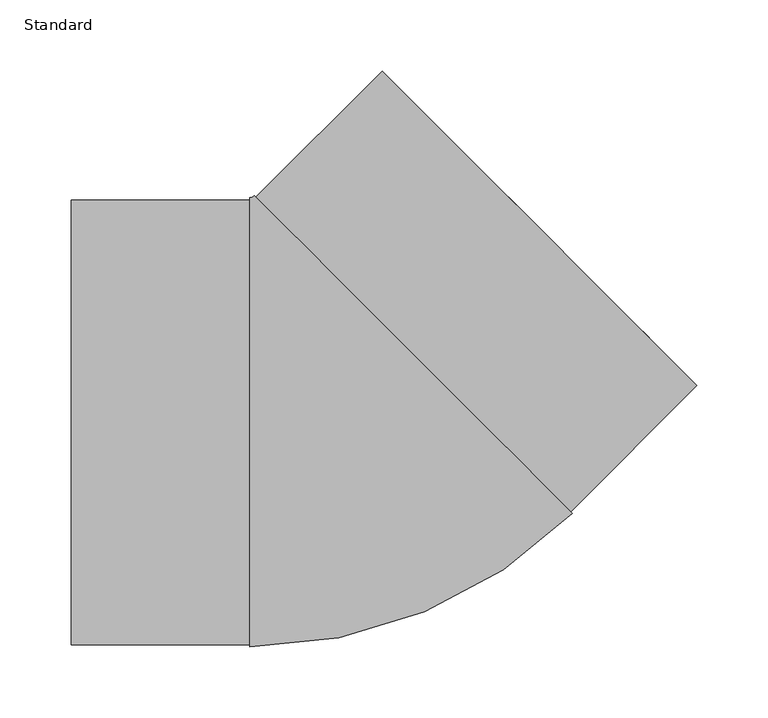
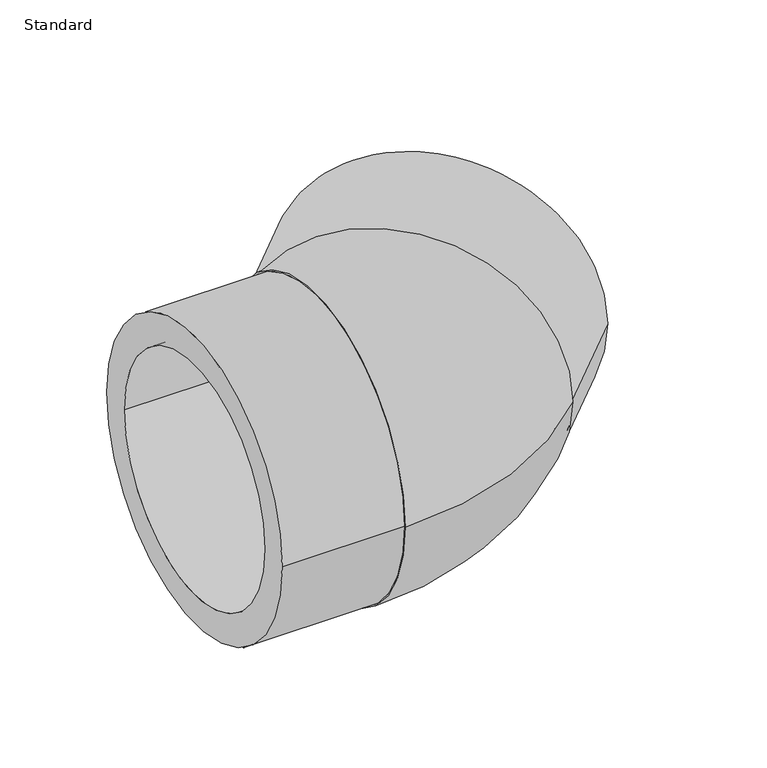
"""IFC4 building model written with IfcOpenShell, lengths in millimetres: pipe fitting geometry, EGB_VASEN_ PPR_Codo a tope 90 WXRB200_Codo a tope 45 WXRB220 : Standard."""

from ifc_helpers import new_model, si_unit, point, frame, origin, place, context, project, spatial, polyline, circle_curve, ellipse_curve, trimmed, source, transform, mapped, element, save
from ifc_brep_helpers import plane_surface, cylinder_surface, revolved_surface, advanced_brep


def standard_2260ea3e(model_context):
    return source(origin(), model_context, "Body", "AdvancedBrep", [
        advanced_brep(
        [(-193.0, -156.5, 0.0), (-193.0, 156.5, 0.0), (-193.0, -125.0, 0.0), (-193.0, 125.0, 0.0), (-67.4457429, -156.5, 0.0), (-67.4457429, 156.5, 0.0), (-67.4457429, -125.0, 0.0), (-67.4457429, 125.0, 0.0), (-67.4457429, -158.0, 0.0), (-67.4457429, 158.0, 0.0), (159.4142136, -64.0315293, 0.0), (-64.0315293, 159.4142136, 0.0), (158.3535534, -62.9708691, 0.0), (-62.9708691, 158.3535534, 0.0), (136.0796898, -40.6970055, 0.0), (-40.6970055, 136.0796898, 0.0), (247.13382, 25.8093975, 0.0), (25.8093975, 247.13382, 0.0), (224.8599564, 48.0832611, 0.0), (48.0832611, 224.8599564, 0.0)],
        [
            (0, 1, circle_curve(frame((-193.0, 0.0, 0.0), z_axis=(-1.0, 0.0, 0.0), x_axis=(0.0, 1.0, 0.0)), 156.5)),
            (1, 0, circle_curve(frame((-193.0, 0.0, 0.0), z_axis=(-1.0, 0.0, 0.0), x_axis=(0.0, 1.0, 0.0)), 156.5)),
            (2, 3, circle_curve(frame((-193.0, 0.0, 0.0), z_axis=(1.0, 0.0, 0.0), x_axis=(0.0, 1.0, 0.0)), 125.0)),
            (3, 2, circle_curve(frame((-193.0, 0.0, 0.0), z_axis=(1.0, 0.0, 0.0), x_axis=(0.0, 1.0, 0.0)), 125.0)),
            (0, 4),
            (4, 5, circle_curve(frame((-67.4457429, 0.0, 0.0), z_axis=(-1.0, 0.0, 0.0), x_axis=(0.0, 1.0, 0.0)), 156.5)),
            (5, 1),
            (5, 4, circle_curve(frame((-67.4457429, 0.0, 0.0), z_axis=(-1.0, 0.0, 0.0), x_axis=(0.0, 1.0, 0.0)), 156.5)),
            (2, 6),
            (6, 7, circle_curve(frame((-67.4457429, 0.0, 0.0), z_axis=(1.0, 0.0, 0.0), x_axis=(0.0, 1.0, 0.0)), 125.0)),
            (7, 3),
            (7, 6, circle_curve(frame((-67.4457429, 0.0, 0.0), z_axis=(1.0, 0.0, 0.0), x_axis=(0.0, 1.0, 0.0)), 125.0)),
            (8, 9, circle_curve(frame((-67.4457429, 0.0, 0.0), z_axis=(-1.0, 0.0, 0.0), x_axis=(0.0, 1.0, 0.0)), 158.0)),
            (9, 8, circle_curve(frame((-67.4457429, 0.0, 0.0), z_axis=(-1.0, 0.0, 0.0), x_axis=(0.0, 1.0, 0.0)), 158.0)),
            (10, 11, circle_curve(frame((47.6913421, 47.6913421, 0.0), z_axis=(0.7071067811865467, 0.7071067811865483, 0.0), x_axis=(-0.7071067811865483, 0.7071067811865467, 0.0)), 158.0)),
            (11, 10, circle_curve(frame((47.6913421, 47.6913421, 0.0), z_axis=(0.7071067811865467, 0.7071067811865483, 0.0), x_axis=(-0.7071067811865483, 0.7071067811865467, 0.0)), 158.0)),
            (12, 13, circle_curve(frame((47.6913421, 47.6913421, 0.0), z_axis=(-0.7071067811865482, -0.7071067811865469, 0.0), x_axis=(-0.7071067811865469, 0.7071067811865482, 0.0)), 156.5)),
            (13, 12, circle_curve(frame((47.6913421, 47.6913421, 0.0), z_axis=(-0.7071067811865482, -0.7071067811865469, 0.0), x_axis=(-0.7071067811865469, 0.7071067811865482, 0.0)), 156.5)),
            (14, 15, circle_curve(frame((47.6913421, 47.6913421, 0.0), z_axis=(0.7071067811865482, 0.7071067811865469, 0.0), x_axis=(-0.7071067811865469, 0.7071067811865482, 0.0)), 125.0)),
            (15, 14, circle_curve(frame((47.6913421, 47.6913421, 0.0), z_axis=(0.7071067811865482, 0.7071067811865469, 0.0), x_axis=(-0.7071067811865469, 0.7071067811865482, 0.0)), 125.0)),
            (8, 10, circle_curve(frame((-67.4457429, 162.8284271, 0.0), z_axis=(0.0, 0.0, 1.0), x_axis=(0.0, -1.0, 0.0)), 320.8284271)),
            (11, 9, circle_curve(frame((-67.4457429, 162.8284271, 0.0), z_axis=(0.0, 0.0, -1.0), x_axis=(0.0, -1.0, 0.0)), 4.8284271)),
            (16, 17, circle_curve(frame((136.4716088, 136.4716088, 0.0), z_axis=(0.7071067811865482, 0.7071067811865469, 0.0), x_axis=(-0.7071067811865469, 0.7071067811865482, 0.0)), 156.5)),
            (17, 16, circle_curve(frame((136.4716088, 136.4716088, 0.0), z_axis=(0.7071067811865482, 0.7071067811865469, 0.0), x_axis=(-0.7071067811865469, 0.7071067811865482, 0.0)), 156.5)),
            (18, 19, circle_curve(frame((136.4716088, 136.4716088, 0.0), z_axis=(-0.7071067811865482, -0.7071067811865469, 0.0), x_axis=(-0.7071067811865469, 0.7071067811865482, 0.0)), 125.0)),
            (19, 18, circle_curve(frame((136.4716088, 136.4716088, 0.0), z_axis=(-0.7071067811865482, -0.7071067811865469, 0.0), x_axis=(-0.7071067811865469, 0.7071067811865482, 0.0)), 125.0)),
            (17, 13),
            (12, 16),
            (19, 15),
            (14, 18),
        ],
        [
            plane_surface(frame((-193.0, 0.0, 0.0), z_axis=(-1.0, 0.0, 0.0), x_axis=(0.0, 0.0, 1.0))),
            cylinder_surface(frame((-193.0, 0.0, 0.0), z_axis=(-1.0, 0.0, 0.0), x_axis=(0.0, 1.0, 0.0)), 156.5),
            revolved_surface(polyline([(-67.4457429, 125.0, 0.0), (-193.0, 125.0, 0.0)]), (-193.0, 0.0, 0.0), (1.0, 0.0, 0.0)),
            plane_surface(frame((-67.4457429, 0.0, 0.0), z_axis=(-1.0, 0.0, 0.0), x_axis=(0.0, 0.0, 1.0))),
            plane_surface(frame((47.6913421, 47.6913421, 0.0), z_axis=(0.7071067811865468, 0.7071067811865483, 0.0), x_axis=(0.0, 0.0, 1.0))),
            revolved_surface(trimmed(ellipse_curve(frame((-67.4457429, 0.0, 0.0), z_axis=(-1.0, 0.0, 0.0), x_axis=(0.0, 1.0, 0.0)), 158.0, 158.0), [point((-67.4457429, -158.0, 0.0))], [point((-67.4457429, 158.0, 0.0))], True, "CARTESIAN"), (-67.4457429, 162.8284271, 0.0), (0.0, 0.0, 1.0)),
            revolved_surface(trimmed(ellipse_curve(frame((-67.4457429, 0.0, 0.0), z_axis=(-1.0, 0.0, 0.0), x_axis=(0.0, 1.0, 0.0)), 158.0, 158.0), [point((-67.4457429, 158.0, 0.0))], [point((-67.4457429, -158.0, 0.0))], True, "CARTESIAN"), (-67.4457429, 162.8284271, 0.0), (0.0, 0.0, 1.0)),
            plane_surface(frame((136.4716088, 136.4716088, 0.0), z_axis=(0.7071067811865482, 0.7071067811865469, 0.0), x_axis=(0.0, 0.0, 1.0))),
            cylinder_surface(frame((47.6913421, 47.6913421, 0.0), z_axis=(-0.7071067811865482, -0.7071067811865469, 0.0), x_axis=(-0.7071067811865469, 0.7071067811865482, 0.0)), 156.5),
            revolved_surface(polyline([(48.083261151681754, 224.85995644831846, 0.0), (-40.69700554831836, 136.07968974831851, 0.0)]), (47.6913421, 47.6913421, 0.0), (0.7071067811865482, 0.7071067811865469, 0.0)),
        ],
        [
            (0, [[1, 2], [3, 4]]),
            (1, [[-1, 5, 6, 7]]),
            (1, [[-2, -7, 8, -5]]),
            (2, [[-3, 9, 10, 11]]),
            (2, [[-4, -11, 12, -9]]),
            (3, [[-10, -12]]),
            (3, [[13, 14], [-6, -8]]),
            (4, [[15, 16], [17, 18]]),
            (4, [[19, 20]]),
            (5, [[-13, 21, -16, 22]]),
            (6, [[-14, -22, -15, -21]]),
            (7, [[23, 24], [25, 26]]),
            (8, [[-24, 27, -17, 28]]),
            (8, [[-23, -28, -18, -27]]),
            (9, [[-26, 29, -19, 30]]),
            (9, [[-25, -30, -20, -29]]),
        ],
    ),
    ])


if __name__ == "__main__":
    model = new_model("IFC4")
    model_context = context("Model", 3, world=origin())
    ifc_project = project(units=[si_unit("LENGTHUNIT", "METRE", prefix="MILLI")], contexts=[model_context])
    site = spatial("IfcSite", under=ifc_project)
    building = spatial("IfcBuilding", under=site)
    placement = place(None, origin())
    standard_shape = standard_2260ea3e(model_context)
    element("IfcPipeFitting", 1, ObjectType="EGB_VASEN_ PPR_Codo a tope 90 WXRB200_Codo a tope 45 WXRB220 : Standard", at=placement, inside=building, context=model_context, shape_type="MappedRepresentation", body=[
        mapped(standard_shape, transform((0.0, 0.0, 0.0), x_axis=(1.0, 0.0, 0.0), y_axis=(0.0, 1.0, 0.0), z_axis=(0.0, 0.0, 1.0))),
    ])
    save(model, "model.ifc")
